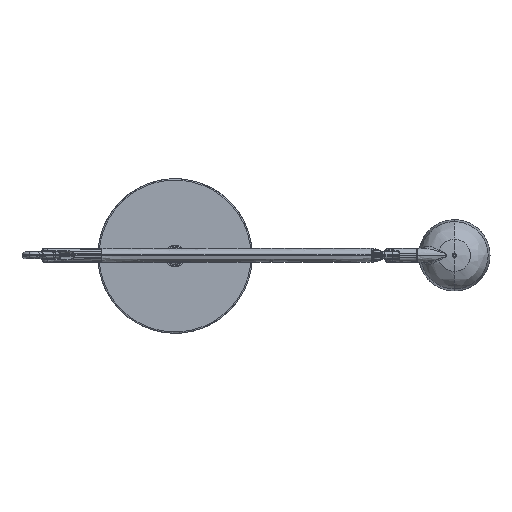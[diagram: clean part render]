
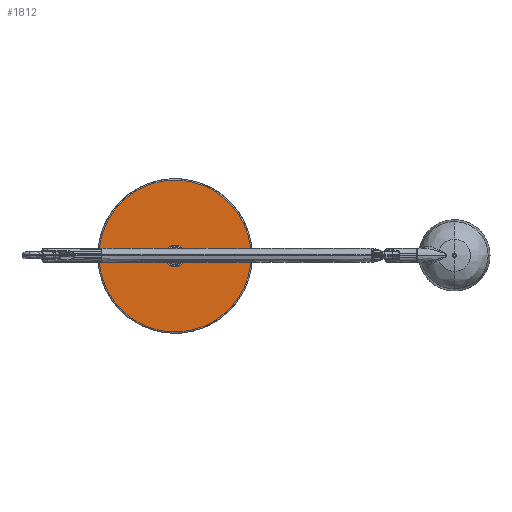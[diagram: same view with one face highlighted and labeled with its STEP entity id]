
A CAD part, top view. The second image highlights one B-rep face of the part: STEP entity #1812.
In plain terms, the highlighted planar face has unit normal (0, 0, 1).
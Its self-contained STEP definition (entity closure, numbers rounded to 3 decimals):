
#373=FACE_BOUND('',#9527,.T.);
#1812=ADVANCED_FACE('',(#5661,#373),#53656,.T.);
#5661=FACE_OUTER_BOUND('',#9526,.T.);
#9526=EDGE_LOOP('',(#16603,#16604));
#9527=EDGE_LOOP('',(#16605,#16606));
#16603=ORIENTED_EDGE('',*,*,#32226,.F.);
#16604=ORIENTED_EDGE('',*,*,#32246,.T.);
#16605=ORIENTED_EDGE('',*,*,#32233,.T.);
#16606=ORIENTED_EDGE('',*,*,#32244,.T.);
#32226=EDGE_CURVE('',#49094,#49095,#39775,.T.);
#32233=EDGE_CURVE('',#49103,#49102,#39779,.T.);
#32244=EDGE_CURVE('',#49102,#49103,#39785,.T.);
#32246=EDGE_CURVE('',#49094,#49095,#39787,.T.);
#39775=(
BOUNDED_CURVE()
B_SPLINE_CURVE(2,(#93723,#93724,#93725,#93726,#93727),.UNSPECIFIED.,.F.,
 .F.)
B_SPLINE_CURVE_WITH_KNOTS((3,2,3),(0.,137.445,274.889),
 .UNSPECIFIED.)
CURVE()
GEOMETRIC_REPRESENTATION_ITEM()
RATIONAL_B_SPLINE_CURVE((1.,0.707,1.,0.707,1.))
REPRESENTATION_ITEM('')
);
#39779=(
BOUNDED_CURVE()
B_SPLINE_CURVE(2,(#93749,#93750,#93751,#93752,#93753),.UNSPECIFIED.,.F.,
 .F.)
B_SPLINE_CURVE_WITH_KNOTS((3,2,3),(-39.27,-19.635,
0.),.UNSPECIFIED.)
CURVE()
GEOMETRIC_REPRESENTATION_ITEM()
RATIONAL_B_SPLINE_CURVE((1.,0.707,1.,0.707,1.))
REPRESENTATION_ITEM('')
);
#39785=(
BOUNDED_CURVE()
B_SPLINE_CURVE(2,(#93789,#93790,#93791,#93792,#93793),.UNSPECIFIED.,.F.,
 .F.)
B_SPLINE_CURVE_WITH_KNOTS((3,2,3),(-39.27,-19.635,
0.),.UNSPECIFIED.)
CURVE()
GEOMETRIC_REPRESENTATION_ITEM()
RATIONAL_B_SPLINE_CURVE((1.,0.707,1.,0.707,1.))
REPRESENTATION_ITEM('')
);
#39787=(
BOUNDED_CURVE()
B_SPLINE_CURVE(2,(#93799,#93800,#93801,#93802,#93803),.UNSPECIFIED.,.F.,
 .F.)
B_SPLINE_CURVE_WITH_KNOTS((3,2,3),(-274.889,-137.445,
0.),.UNSPECIFIED.)
CURVE()
GEOMETRIC_REPRESENTATION_ITEM()
RATIONAL_B_SPLINE_CURVE((1.,0.707,1.,0.707,1.))
REPRESENTATION_ITEM('')
);
#49094=VERTEX_POINT('',#93678);
#49095=VERTEX_POINT('',#93679);
#49102=VERTEX_POINT('',#93686);
#49103=VERTEX_POINT('',#93687);
#53656=PLANE('',#57280);
#57280=AXIS2_PLACEMENT_3D('',#93549,#58155,$);
#58155=DIRECTION('',(0.,0.,1.));
#93549=CARTESIAN_POINT('',(-105.,159.129,-248.63));
#93678=CARTESIAN_POINT('',(-87.5,264.13,-248.63));
#93679=CARTESIAN_POINT('',(87.5,264.13,-248.63));
#93686=CARTESIAN_POINT('',(-12.5,264.13,-248.63));
#93687=CARTESIAN_POINT('',(12.5,264.13,-248.63));
#93723=CARTESIAN_POINT('',(-87.5,264.13,-248.63));
#93724=CARTESIAN_POINT('',(-87.5,351.63,-248.63));
#93725=CARTESIAN_POINT('',(0.,351.63,-248.63));
#93726=CARTESIAN_POINT('',(87.5,351.63,-248.63));
#93727=CARTESIAN_POINT('',(87.5,264.13,-248.63));
#93749=CARTESIAN_POINT('',(12.5,264.13,-248.63));
#93750=CARTESIAN_POINT('',(12.5,251.63,-248.63));
#93751=CARTESIAN_POINT('',(0.,251.63,-248.63));
#93752=CARTESIAN_POINT('',(-12.5,251.63,-248.63));
#93753=CARTESIAN_POINT('',(-12.5,264.13,-248.63));
#93789=CARTESIAN_POINT('',(-12.5,264.13,-248.63));
#93790=CARTESIAN_POINT('',(-12.5,276.63,-248.63));
#93791=CARTESIAN_POINT('',(0.,276.63,-248.63));
#93792=CARTESIAN_POINT('',(12.5,276.63,-248.63));
#93793=CARTESIAN_POINT('',(12.5,264.13,-248.63));
#93799=CARTESIAN_POINT('',(-87.5,264.13,-248.63));
#93800=CARTESIAN_POINT('',(-87.5,176.63,-248.63));
#93801=CARTESIAN_POINT('',(0.,176.63,-248.63));
#93802=CARTESIAN_POINT('',(87.5,176.63,-248.63));
#93803=CARTESIAN_POINT('',(87.5,264.13,-248.63));
